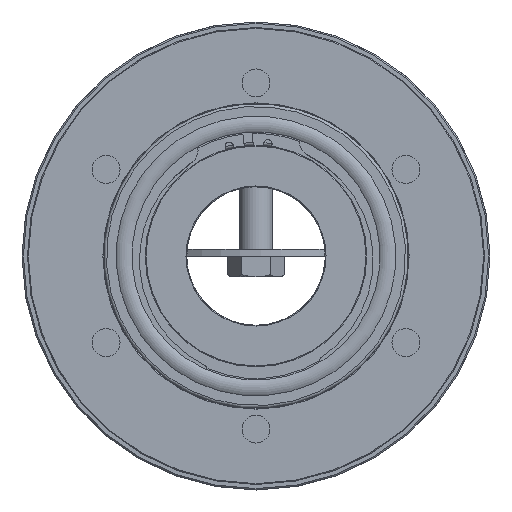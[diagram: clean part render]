
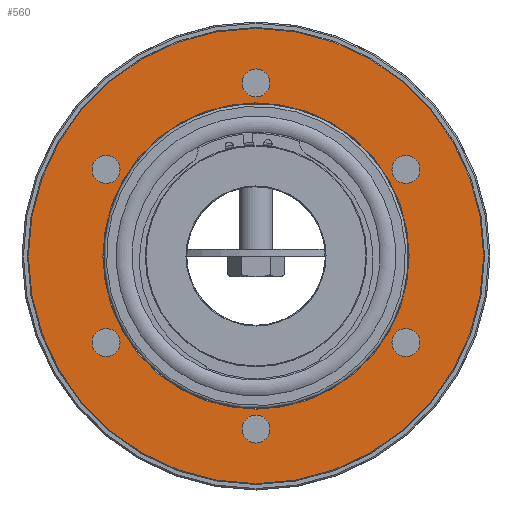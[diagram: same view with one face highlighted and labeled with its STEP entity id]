
A CAD part, left-side view. The second image highlights one B-rep face of the part: STEP entity #560.
In plain terms, the highlighted planar face has unit normal (-1, 0, 0).
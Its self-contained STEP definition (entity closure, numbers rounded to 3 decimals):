
#560 = ADVANCED_FACE( '', ( #1064, #1065, #1066, #1067, #1068, #1069, #1070, #1071 ), #1072, .F. );
#1064 = FACE_OUTER_BOUND( '', #1576, .T. );
#1065 = FACE_BOUND( '', #1577, .T. );
#1066 = FACE_BOUND( '', #1578, .T. );
#1067 = FACE_BOUND( '', #1579, .T. );
#1068 = FACE_BOUND( '', #1580, .T. );
#1069 = FACE_BOUND( '', #1581, .T. );
#1070 = FACE_BOUND( '', #1582, .T. );
#1071 = FACE_BOUND( '', #1583, .T. );
#1072 = PLANE( '', #1584 );
#1576 = EDGE_LOOP( '', ( #2614 ) );
#1577 = EDGE_LOOP( '', ( #2615 ) );
#1578 = EDGE_LOOP( '', ( #2616 ) );
#1579 = EDGE_LOOP( '', ( #2617 ) );
#1580 = EDGE_LOOP( '', ( #2618 ) );
#1581 = EDGE_LOOP( '', ( #2619 ) );
#1582 = EDGE_LOOP( '', ( #2620 ) );
#1583 = EDGE_LOOP( '', ( #2621 ) );
#1584 = AXIS2_PLACEMENT_3D( '', #2622, #2623, #2624 );
#2614 = ORIENTED_EDGE( '', *, *, #2983, .T. );
#2615 = ORIENTED_EDGE( '', *, *, #2984, .T. );
#2616 = ORIENTED_EDGE( '', *, *, #2985, .T. );
#2617 = ORIENTED_EDGE( '', *, *, #2986, .T. );
#2618 = ORIENTED_EDGE( '', *, *, #2987, .T. );
#2619 = ORIENTED_EDGE( '', *, *, #2988, .T. );
#2620 = ORIENTED_EDGE( '', *, *, #2989, .T. );
#2621 = ORIENTED_EDGE( '', *, *, #2990, .T. );
#2622 = CARTESIAN_POINT( '', ( -33.15, 82.5, 0. ) );
#2623 = DIRECTION( '', ( 1., 0., 0. ) );
#2624 = DIRECTION( '', ( 0., 1., 0. ) );
#2983 = EDGE_CURVE( '', #3466, #3466, #3467, .T. );
#2984 = EDGE_CURVE( '', #3468, #3468, #3469, .T. );
#2985 = EDGE_CURVE( '', #3470, #3470, #3471, .T. );
#2986 = EDGE_CURVE( '', #3472, #3472, #3473, .T. );
#2987 = EDGE_CURVE( '', #3474, #3474, #3475, .T. );
#2988 = EDGE_CURVE( '', #3476, #3476, #3477, .T. );
#2989 = EDGE_CURVE( '', #3478, #3478, #3479, .T. );
#2990 = EDGE_CURVE( '', #3480, #3480, #3481, .T. );
#3466 = VERTEX_POINT( '', #4484 );
#3467 = CIRCLE( '', #4485, 82.2 );
#3468 = VERTEX_POINT( '', #4486 );
#3469 = CIRCLE( '', #4487, 55.3 );
#3470 = VERTEX_POINT( '', #4488 );
#3471 = CIRCLE( '', #4489, 5.053 );
#3472 = VERTEX_POINT( '', #4490 );
#3473 = CIRCLE( '', #4491, 5.053 );
#3474 = VERTEX_POINT( '', #4492 );
#3475 = CIRCLE( '', #4493, 5.053 );
#3476 = VERTEX_POINT( '', #4494 );
#3477 = CIRCLE( '', #4495, 5.053 );
#3478 = VERTEX_POINT( '', #4496 );
#3479 = CIRCLE( '', #4497, 5.053 );
#3480 = VERTEX_POINT( '', #4498 );
#3481 = CIRCLE( '', #4499, 5.053 );
#4484 = CARTESIAN_POINT( '', ( -33.15, 0., -82.2 ) );
#4485 = AXIS2_PLACEMENT_3D( '', #5056, #5057, #5058 );
#4486 = CARTESIAN_POINT( '', ( -33.15, 0., -55.3 ) );
#4487 = AXIS2_PLACEMENT_3D( '', #5059, #5060, #5061 );
#4488 = CARTESIAN_POINT( '', ( -33.15, 58.503, 33.777 ) );
#4489 = AXIS2_PLACEMENT_3D( '', #5062, #5063, #5064 );
#4490 = CARTESIAN_POINT( '', ( -33.15, 58.503, -33.777 ) );
#4491 = AXIS2_PLACEMENT_3D( '', #5065, #5066, #5067 );
#4492 = CARTESIAN_POINT( '', ( -33.15, 0., -67.553 ) );
#4493 = AXIS2_PLACEMENT_3D( '', #5068, #5069, #5070 );
#4494 = CARTESIAN_POINT( '', ( -33.15, -58.503, -33.777 ) );
#4495 = AXIS2_PLACEMENT_3D( '', #5071, #5072, #5073 );
#4496 = CARTESIAN_POINT( '', ( -33.15, -58.503, 33.777 ) );
#4497 = AXIS2_PLACEMENT_3D( '', #5074, #5075, #5076 );
#4498 = CARTESIAN_POINT( '', ( -33.15, 0., 67.553 ) );
#4499 = AXIS2_PLACEMENT_3D( '', #5077, #5078, #5079 );
#5056 = CARTESIAN_POINT( '', ( -33.15, 0., 0. ) );
#5057 = DIRECTION( '', ( -1., 0., 0. ) );
#5058 = DIRECTION( '', ( 0., 0., -1. ) );
#5059 = CARTESIAN_POINT( '', ( -33.15, 0., 0. ) );
#5060 = DIRECTION( '', ( 1., 0., 0. ) );
#5061 = DIRECTION( '', ( 0., 0., -1. ) );
#5062 = CARTESIAN_POINT( '', ( -33.15, 54.127, 31.25 ) );
#5063 = DIRECTION( '', ( 1., 0., 0. ) );
#5064 = DIRECTION( '', ( 0., 0.866, 0.5 ) );
#5065 = CARTESIAN_POINT( '', ( -33.15, 54.127, -31.25 ) );
#5066 = DIRECTION( '', ( 1., 0., 0. ) );
#5067 = DIRECTION( '', ( 0., 0.866, -0.5 ) );
#5068 = CARTESIAN_POINT( '', ( -33.15, 0., -62.5 ) );
#5069 = DIRECTION( '', ( 1., 0., 0. ) );
#5070 = DIRECTION( '', ( 0., 0., -1. ) );
#5071 = CARTESIAN_POINT( '', ( -33.15, -54.127, -31.25 ) );
#5072 = DIRECTION( '', ( 1., 0., 0. ) );
#5073 = DIRECTION( '', ( 0., -0.866, -0.5 ) );
#5074 = CARTESIAN_POINT( '', ( -33.15, -54.127, 31.25 ) );
#5075 = DIRECTION( '', ( 1., 0., 0. ) );
#5076 = DIRECTION( '', ( 0., -0.866, 0.5 ) );
#5077 = CARTESIAN_POINT( '', ( -33.15, 0., 62.5 ) );
#5078 = DIRECTION( '', ( 1., 0., 0. ) );
#5079 = DIRECTION( '', ( 0., 0., 1. ) );
